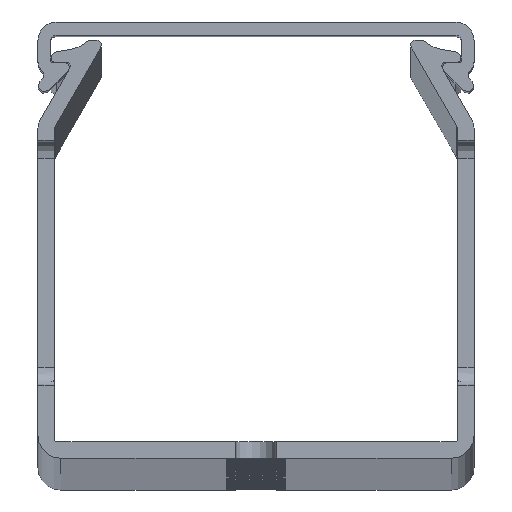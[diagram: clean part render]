
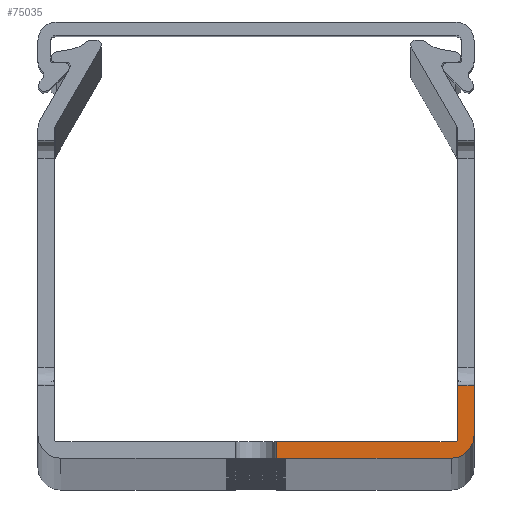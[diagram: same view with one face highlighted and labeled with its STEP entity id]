
A CAD part, top view. The second image highlights one B-rep face of the part: STEP entity #75035.
In plain terms, the highlighted planar face has unit normal (0, 0, 1).
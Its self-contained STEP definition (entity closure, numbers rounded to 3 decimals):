
#1678 = CARTESIAN_POINT ( 'NONE',  ( 0., 0., 1000. ) ) ;
#1884 = VERTEX_POINT ( 'NONE', #56359 ) ;
#2021 = CARTESIAN_POINT ( 'NONE',  ( 24., 0., 1000. ) ) ;
#3512 = CARTESIAN_POINT ( 'NONE',  ( 21.9, 1.8, 1000. ) ) ;
#5149 = CARTESIAN_POINT ( 'NONE',  ( -22.2, 1.8, 1000. ) ) ;
#7518 = EDGE_CURVE ( 'NONE', #74958, #1884, #70589, .T. ) ;
#7692 = LINE ( 'NONE', #2021, #9848 ) ;
#9848 = VECTOR ( 'NONE', #49646, 1000. ) ;
#11315 = ORIENTED_EDGE ( 'NONE', *, *, #7518, .T. ) ;
#11806 = ORIENTED_EDGE ( 'NONE', *, *, #28170, .F. ) ;
#14757 = VERTEX_POINT ( 'NONE', #27016 ) ;
#15299 = LINE ( 'NONE', #74108, #33421 ) ;
#17336 = VECTOR ( 'NONE', #69511, 1000. ) ;
#17684 = LINE ( 'NONE', #5149, #33729 ) ;
#23181 = AXIS2_PLACEMENT_3D ( 'NONE', #37516, #84909, #44350 ) ;
#23793 = LINE ( 'NONE', #1678, #17336 ) ;
#24672 = EDGE_LOOP ( 'NONE', ( #29845, #11806, #83706, #67682, #48622, #29438, #11315, #79970 ) ) ;
#24877 = CARTESIAN_POINT ( 'NONE',  ( -20.676, 8., 1000. ) ) ;
#26032 = CIRCLE ( 'NONE', #23181, 0.3 ) ;
#27016 = CARTESIAN_POINT ( 'NONE',  ( 24., 8., 1000. ) ) ;
#27191 = VECTOR ( 'NONE', #31580, 1000. ) ;
#27929 = AXIS2_PLACEMENT_3D ( 'NONE', #76961, #70496, #29774 ) ;
#28170 = EDGE_CURVE ( 'NONE', #35347, #32864, #15299, .T. ) ;
#29438 = ORIENTED_EDGE ( 'NONE', *, *, #66790, .T. ) ;
#29774 = DIRECTION ( 'NONE',  ( 1., 0., 0. ) ) ;
#29845 = ORIENTED_EDGE ( 'NONE', *, *, #73683, .F. ) ;
#31580 = DIRECTION ( 'NONE',  ( 0., -1., 0. ) ) ;
#32864 = VERTEX_POINT ( 'NONE', #38753 ) ;
#33232 = EDGE_CURVE ( 'NONE', #76415, #64751, #65465, .T. ) ;
#33421 = VECTOR ( 'NONE', #60526, 1000. ) ;
#33729 = VECTOR ( 'NONE', #52816, 1000. ) ;
#35116 = CARTESIAN_POINT ( 'NONE',  ( 21.5, 0., 1000. ) ) ;
#35347 = VERTEX_POINT ( 'NONE', #83605 ) ;
#37516 = CARTESIAN_POINT ( 'NONE',  ( 21.9, 2.1, 1000. ) ) ;
#38063 = DIRECTION ( 'NONE',  ( 1., 0., 0. ) ) ;
#38135 = DIRECTION ( 'NONE',  ( 0., 0., 1. ) ) ;
#38244 = CARTESIAN_POINT ( 'NONE',  ( 21.5, 2.5, 1000. ) ) ;
#38753 = CARTESIAN_POINT ( 'NONE',  ( 22.2, 8., 1000. ) ) ;
#42631 = CARTESIAN_POINT ( 'NONE',  ( 2.25, 1.8, 1000. ) ) ;
#42850 = VECTOR ( 'NONE', #72706, 1000. ) ;
#44350 = DIRECTION ( 'NONE',  ( 1., 0., 0. ) ) ;
#47430 = EDGE_CURVE ( 'NONE', #14757, #1884, #7692, .T. ) ;
#48622 = ORIENTED_EDGE ( 'NONE', *, *, #33232, .T. ) ;
#49646 = DIRECTION ( 'NONE',  ( 0., -1., 0. ) ) ;
#52413 = AXIS2_PLACEMENT_3D ( 'NONE', #38244, #38135, #38063 ) ;
#52816 = DIRECTION ( 'NONE',  ( -1., 0., 0. ) ) ;
#56359 = CARTESIAN_POINT ( 'NONE',  ( 24., 2.5, 1000. ) ) ;
#56862 = PLANE ( 'NONE',  #27929 ) ;
#60526 = DIRECTION ( 'NONE',  ( 0., 1., 0. ) ) ;
#60899 = LINE ( 'NONE', #24877, #42850 ) ;
#64751 = VERTEX_POINT ( 'NONE', #71820 ) ;
#65443 = CARTESIAN_POINT ( 'NONE',  ( 2.25, 43.2, 1000. ) ) ;
#65465 = LINE ( 'NONE', #65443, #27191 ) ;
#66285 = EDGE_CURVE ( 'NONE', #35347, #81285, #26032, .T. ) ;
#66790 = EDGE_CURVE ( 'NONE', #64751, #74958, #23793, .T. ) ;
#67682 = ORIENTED_EDGE ( 'NONE', *, *, #86091, .T. ) ;
#69511 = DIRECTION ( 'NONE',  ( 1., 0., 0. ) ) ;
#70496 = DIRECTION ( 'NONE',  ( 0., 0., 1. ) ) ;
#70589 = CIRCLE ( 'NONE', #52413, 2.5 ) ;
#71820 = CARTESIAN_POINT ( 'NONE',  ( 2.25, 0., 1000. ) ) ;
#72706 = DIRECTION ( 'NONE',  ( 1., 0., 0. ) ) ;
#73683 = EDGE_CURVE ( 'NONE', #32864, #14757, #60899, .T. ) ;
#74108 = CARTESIAN_POINT ( 'NONE',  ( 22.2, 36.36, 1000. ) ) ;
#74958 = VERTEX_POINT ( 'NONE', #35116 ) ;
#75035 = ADVANCED_FACE ( 'NONE', ( #85005 ), #56862, .T. ) ;
#76415 = VERTEX_POINT ( 'NONE', #42631 ) ;
#76961 = CARTESIAN_POINT ( 'NONE',  ( -20.676, 43.2, 1000. ) ) ;
#79970 = ORIENTED_EDGE ( 'NONE', *, *, #47430, .F. ) ;
#81285 = VERTEX_POINT ( 'NONE', #3512 ) ;
#83605 = CARTESIAN_POINT ( 'NONE',  ( 22.2, 2.1, 1000. ) ) ;
#83706 = ORIENTED_EDGE ( 'NONE', *, *, #66285, .T. ) ;
#84909 = DIRECTION ( 'NONE',  ( 0., 0., -1. ) ) ;
#85005 = FACE_OUTER_BOUND ( 'NONE', #24672, .T. ) ;
#86091 = EDGE_CURVE ( 'NONE', #81285, #76415, #17684, .T. ) ;
